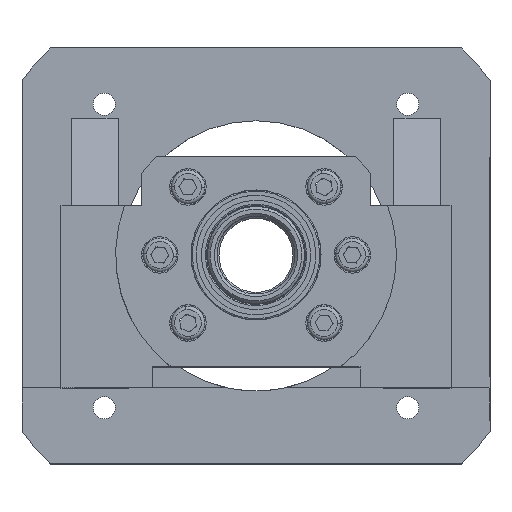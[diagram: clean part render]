
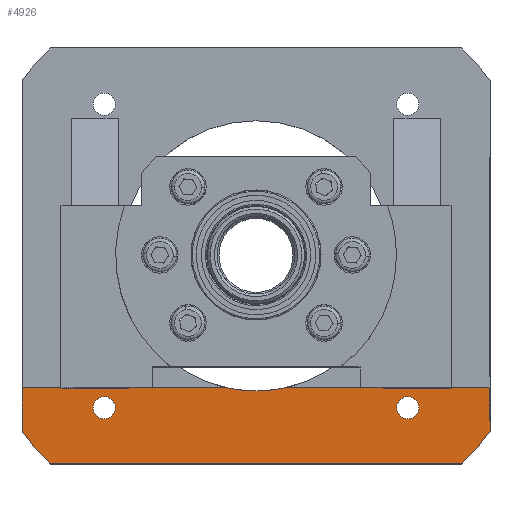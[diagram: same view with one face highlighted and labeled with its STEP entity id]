
A CAD part, top view. The second image highlights one B-rep face of the part: STEP entity #4926.
In plain terms, the highlighted planar face has unit normal (0, 0, 1).
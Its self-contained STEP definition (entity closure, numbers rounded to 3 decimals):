
#9 = VERTEX_POINT ( 'NONE', #8754 ) ;
#170 = CARTESIAN_POINT ( 'NONE',  ( 58.336, -58.336, 21. ) ) ;
#190 = EDGE_CURVE ( 'NONE', #7472, #3698, #3887, .T. ) ;
#374 = ORIENTED_EDGE ( 'NONE', *, *, #4498, .F. ) ;
#437 = LINE ( 'NONE', #1148, #724 ) ;
#489 = DIRECTION ( 'NONE',  ( 1., 0., 0. ) ) ;
#506 = VECTOR ( 'NONE', #8299, 1000. ) ;
#557 = ORIENTED_EDGE ( 'NONE', *, *, #9122, .T. ) ;
#724 = VECTOR ( 'NONE', #1051, 1000. ) ;
#793 = LINE ( 'NONE', #4797, #506 ) ;
#1051 = DIRECTION ( 'NONE',  ( 1., 0., 0. ) ) ;
#1074 = DIRECTION ( 'NONE',  ( 1., 0., 0. ) ) ;
#1148 = CARTESIAN_POINT ( 'NONE',  ( -104.626, -50.7, 21. ) ) ;
#1224 = ORIENTED_EDGE ( 'NONE', *, *, #11226, .F. ) ;
#1237 = CIRCLE ( 'NONE', #7633, 4.25 ) ;
#1239 = AXIS2_PLACEMENT_3D ( 'NONE', #170, #6418, #1074 ) ;
#1401 = VECTOR ( 'NONE', #1833, 1000. ) ;
#1556 = CARTESIAN_POINT ( 'NONE',  ( 0., 0., 21. ) ) ;
#1588 = AXIS2_PLACEMENT_3D ( 'NONE', #10521, #10514, #10501 ) ;
#1652 = VERTEX_POINT ( 'NONE', #5970 ) ;
#1669 = CARTESIAN_POINT ( 'NONE',  ( 11.555, -50.7, 21. ) ) ;
#1694 = ORIENTED_EDGE ( 'NONE', *, *, #190, .F. ) ;
#1833 = DIRECTION ( 'NONE',  ( 1., 0., 0. ) ) ;
#2021 = EDGE_CURVE ( 'NONE', #8040, #10876, #437, .T. ) ;
#2369 = ORIENTED_EDGE ( 'NONE', *, *, #9010, .F. ) ;
#2471 = DIRECTION ( 'NONE',  ( 1., 0., 0. ) ) ;
#2732 = CARTESIAN_POINT ( 'NONE',  ( -54.086, -58.336, 21. ) ) ;
#2852 = AXIS2_PLACEMENT_3D ( 'NONE', #3389, #3345, #3321 ) ;
#2936 = EDGE_CURVE ( 'NONE', #8040, #3698, #8689, .T. ) ;
#3321 = DIRECTION ( 'NONE',  ( 1., 0., 0. ) ) ;
#3340 = CIRCLE ( 'NONE', #8918, 4.25 ) ;
#3345 = DIRECTION ( 'NONE',  ( 0., 0., -1. ) ) ;
#3377 = CARTESIAN_POINT ( 'NONE',  ( -11.555, -50.7, 21. ) ) ;
#3389 = CARTESIAN_POINT ( 'NONE',  ( 0., 0., 21. ) ) ;
#3566 = CARTESIAN_POINT ( 'NONE',  ( -90., -67.5, 21. ) ) ;
#3698 = VERTEX_POINT ( 'NONE', #3377 ) ;
#3829 = ORIENTED_EDGE ( 'NONE', *, *, #10547, .F. ) ;
#3887 = LINE ( 'NONE', #7737, #10493 ) ;
#3919 = CIRCLE ( 'NONE', #1588, 4.25 ) ;
#3942 = CARTESIAN_POINT ( 'NONE',  ( 79.096, -80., 21. ) ) ;
#3971 = ORIENTED_EDGE ( 'NONE', *, *, #7176, .T. ) ;
#4042 = CARTESIAN_POINT ( 'NONE',  ( 54.086, -58.336, 21. ) ) ;
#4430 = CARTESIAN_POINT ( 'NONE',  ( 0., 0., 21. ) ) ;
#4498 = EDGE_CURVE ( 'NONE', #1652, #6024, #3919, .T. ) ;
#4536 = ORIENTED_EDGE ( 'NONE', *, *, #8732, .T. ) ;
#4794 = EDGE_LOOP ( 'NONE', ( #374, #3829 ) ) ;
#4797 = CARTESIAN_POINT ( 'NONE',  ( -90., 80., 21. ) ) ;
#4837 = VERTEX_POINT ( 'NONE', #7473 ) ;
#4838 = CARTESIAN_POINT ( 'NONE',  ( -79.096, -80., 21. ) ) ;
#4926 = ADVANCED_FACE ( 'NONE', ( #5823, #9605, #5278 ), #6182, .T. ) ;
#4998 = LINE ( 'NONE', #8806, #7573 ) ;
#5012 = CARTESIAN_POINT ( 'NONE',  ( 58.336, -58.336, 21. ) ) ;
#5278 = FACE_OUTER_BOUND ( 'NONE', #8314, .T. ) ;
#5290 = DIRECTION ( 'NONE',  ( 1., 0., 0. ) ) ;
#5436 = EDGE_CURVE ( 'NONE', #4837, #10876, #4998, .T. ) ;
#5473 = ORIENTED_EDGE ( 'NONE', *, *, #2021, .F. ) ;
#5823 = FACE_BOUND ( 'NONE', #9655, .T. ) ;
#5858 = DIRECTION ( 'NONE',  ( 0., 0., 1. ) ) ;
#5881 = DIRECTION ( 'NONE',  ( 1., 0., 0. ) ) ;
#5970 = CARTESIAN_POINT ( 'NONE',  ( -62.586, -58.336, 21. ) ) ;
#5994 = ORIENTED_EDGE ( 'NONE', *, *, #5436, .T. ) ;
#6024 = VERTEX_POINT ( 'NONE', #2732 ) ;
#6044 = DIRECTION ( 'NONE',  ( 1., 0., 0. ) ) ;
#6075 = DIRECTION ( 'NONE',  ( 0., 0., 1. ) ) ;
#6139 = VERTEX_POINT ( 'NONE', #3566 ) ;
#6157 = CARTESIAN_POINT ( 'NONE',  ( -104.626, -111., 21. ) ) ;
#6182 = PLANE ( 'NONE',  #8957 ) ;
#6312 = CARTESIAN_POINT ( 'NONE',  ( 90., -50.7, 21. ) ) ;
#6412 = LINE ( 'NONE', #11357, #1401 ) ;
#6418 = DIRECTION ( 'NONE',  ( 0., 0., 1. ) ) ;
#7176 = EDGE_CURVE ( 'NONE', #11111, #4837, #8302, .T. ) ;
#7406 = EDGE_CURVE ( 'NONE', #9126, #11111, #6412, .T. ) ;
#7472 = VERTEX_POINT ( 'NONE', #9771 ) ;
#7473 = CARTESIAN_POINT ( 'NONE',  ( 90., -67.5, 21. ) ) ;
#7573 = VECTOR ( 'NONE', #8029, 1000. ) ;
#7633 = AXIS2_PLACEMENT_3D ( 'NONE', #10971, #5858, #489 ) ;
#7704 = DIRECTION ( 'NONE',  ( 1., 0., 0. ) ) ;
#7733 = DIRECTION ( 'NONE',  ( 0., 0., 1. ) ) ;
#7737 = CARTESIAN_POINT ( 'NONE',  ( -104.626, -50.7, 21. ) ) ;
#8029 = DIRECTION ( 'NONE',  ( 0., 1., 0. ) ) ;
#8040 = VERTEX_POINT ( 'NONE', #1669 ) ;
#8209 = AXIS2_PLACEMENT_3D ( 'NONE', #1556, #7733, #2471 ) ;
#8269 = CIRCLE ( 'NONE', #9340, 112.5 ) ;
#8299 = DIRECTION ( 'NONE',  ( 0., -1., 0. ) ) ;
#8302 = CIRCLE ( 'NONE', #8209, 112.5 ) ;
#8314 = EDGE_LOOP ( 'NONE', ( #557, #4536, #11084, #3971, #5994, #5473, #9245, #1694 ) ) ;
#8689 = CIRCLE ( 'NONE', #2852, 52. ) ;
#8732 = EDGE_CURVE ( 'NONE', #6139, #9126, #8269, .T. ) ;
#8754 = CARTESIAN_POINT ( 'NONE',  ( 62.586, -58.336, 21. ) ) ;
#8806 = CARTESIAN_POINT ( 'NONE',  ( 90., 80., 21. ) ) ;
#8918 = AXIS2_PLACEMENT_3D ( 'NONE', #5012, #10997, #5881 ) ;
#8957 = AXIS2_PLACEMENT_3D ( 'NONE', #6157, #6075, #6044 ) ;
#9010 = EDGE_CURVE ( 'NONE', #9754, #9, #10390, .T. ) ;
#9122 = EDGE_CURVE ( 'NONE', #7472, #6139, #793, .T. ) ;
#9126 = VERTEX_POINT ( 'NONE', #4838 ) ;
#9245 = ORIENTED_EDGE ( 'NONE', *, *, #2936, .T. ) ;
#9340 = AXIS2_PLACEMENT_3D ( 'NONE', #4430, #10439, #5290 ) ;
#9605 = FACE_BOUND ( 'NONE', #4794, .T. ) ;
#9655 = EDGE_LOOP ( 'NONE', ( #2369, #1224 ) ) ;
#9754 = VERTEX_POINT ( 'NONE', #4042 ) ;
#9771 = CARTESIAN_POINT ( 'NONE',  ( -90., -50.7, 21. ) ) ;
#10390 = CIRCLE ( 'NONE', #1239, 4.25 ) ;
#10439 = DIRECTION ( 'NONE',  ( 0., 0., 1. ) ) ;
#10493 = VECTOR ( 'NONE', #7704, 1000. ) ;
#10501 = DIRECTION ( 'NONE',  ( 1., 0., 0. ) ) ;
#10514 = DIRECTION ( 'NONE',  ( 0., 0., 1. ) ) ;
#10521 = CARTESIAN_POINT ( 'NONE',  ( -58.336, -58.336, 21. ) ) ;
#10547 = EDGE_CURVE ( 'NONE', #6024, #1652, #1237, .T. ) ;
#10876 = VERTEX_POINT ( 'NONE', #6312 ) ;
#10971 = CARTESIAN_POINT ( 'NONE',  ( -58.336, -58.336, 21. ) ) ;
#10997 = DIRECTION ( 'NONE',  ( 0., 0., 1. ) ) ;
#11084 = ORIENTED_EDGE ( 'NONE', *, *, #7406, .T. ) ;
#11111 = VERTEX_POINT ( 'NONE', #3942 ) ;
#11226 = EDGE_CURVE ( 'NONE', #9, #9754, #3340, .T. ) ;
#11357 = CARTESIAN_POINT ( 'NONE',  ( -90., -80., 21. ) ) ;
